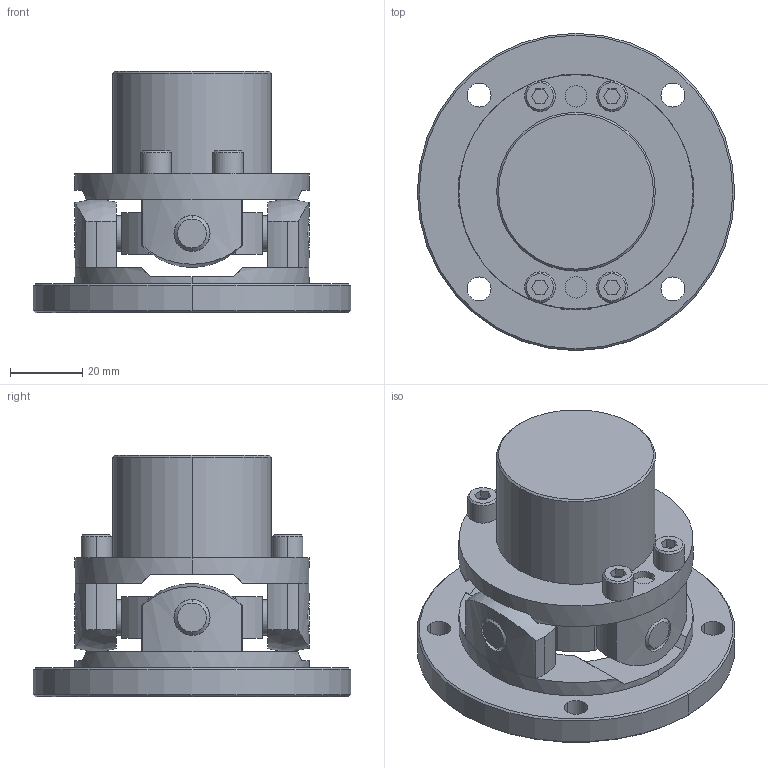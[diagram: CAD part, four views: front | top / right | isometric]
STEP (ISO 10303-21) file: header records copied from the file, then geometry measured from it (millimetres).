
FILE_DESCRIPTION((''),'2;1');
FILE_NAME('UCRF-65.stp','2013-05-13T09:19:21',(''),(''),'AutoCAD STEP 2000i','AutoCAD 2000i',', , ');
FILE_SCHEMA(('CONFIG_CONTROL_DESIGN'));
Length unit declared in the file: millimetre
Products named in the file (9): UCRF-65; 忣兜1; UCR-6502; UCN65-B022; UCN65-B016; UCNF-6502; UCN65-B014-1; UCN65-B014; UCN65-SEN
Assembly tree (8 placements, depth 2):
  UCRF-65
    忣兜1
    UCR-6502
    UCN65-B022
    UCN65-B016
    UCNF-6502
    UCN65-B014-1
    UCN65-B014
    UCN65-SEN
Bounding box: 88 x 88 x 67 mm (x, y, z)
Volume: 136684.5 mm3; surface area: 37729.3 mm2
Topology: 1 solids, 1 shells, 243 faces, 598 edges, 386 vertices
Faces by surface type: plane 111, cylinder 94, cone 34, sphere 4
Entity records: 7835 total; most frequent: CARTESIAN_POINT 1624, DIRECTION 1362, ORIENTED_EDGE 1196, EDGE_CURVE 598, AXIS2_PLACEMENT_3D 528, VERTEX_POINT 386, VECTOR 306, LINE 306
